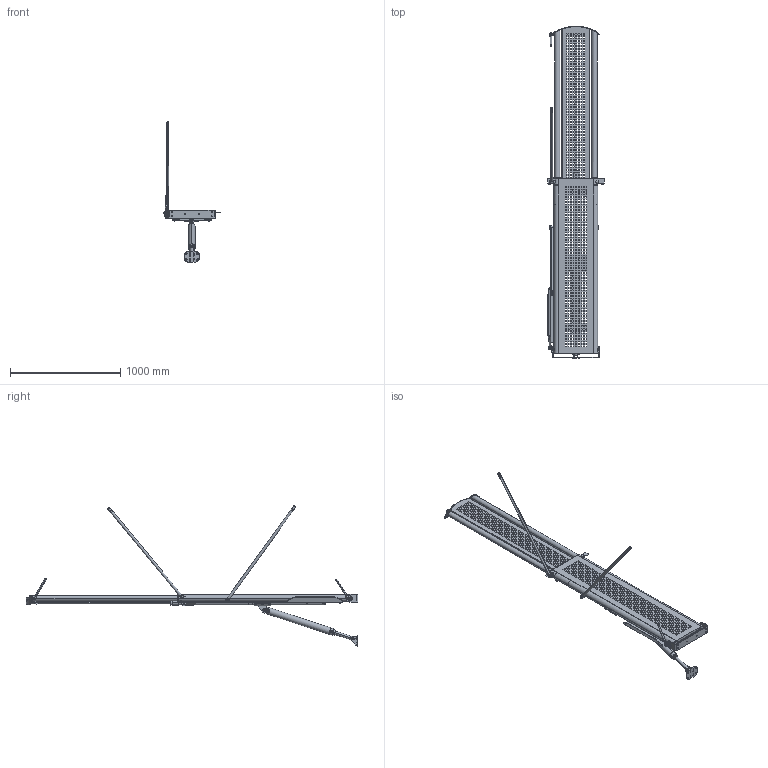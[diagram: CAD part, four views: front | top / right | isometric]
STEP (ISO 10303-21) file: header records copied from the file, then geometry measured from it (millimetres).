
FILE_DESCRIPTION (( 'STEP AP203' ), '1' );
FILE_NAME ('C01000628_ASS_Pass_sme M30 standard tubo D60MODIFICA.STEP', '2022-12-20T10:40:29', ( '' ), ( '' ), 'SwSTEP 2.0', 'SolidWorks 2020', '' );
FILE_SCHEMA (( 'CONFIG_CONTROL_DESIGN' ));
Length unit declared in the file: millimetre
Products named in the file (61): D01000052MODIFICA; GolfareM6MODIFICA; D01000071MODIFICA; Treccia D-14MODIFICA; D01000050MODIFICA; vite_iso_7380-m6x10MODIFICA; Camic_cil_soll C500MODIFICA; vite_iso_7380-m5x12MODIFICA; D04000018MODIFICA; D01003582MODIFICA; D01000067MODIFICA; D02000872MODIFICA; E07000022_ASS_Cil_sfilo_C1275MODIFICA; viti_iso_4027-m5x16MODIFICA; D02000028MODIFICA; rosetta_iso_7089-5MODIFICA; D01000055MODIFICA; D01003581MODIFICA; D02000057MODIFICA; vite_iso_7380-m5x10MODIFICA; D02001356MODIFICA; D02000029MODIFICA; C02000914_Gr_Telaio fisso SME M30 tubo D60MODIFICA; D03000011MODIFICA; D02000595MODIFICA; D02000016MODIFICA; D02000012MODIFICA; Copiglia A4 3_2x40MODIFICA; vite_iso_10642-m5x16MODIFICA; E07000002_ASS_cil_soll_C500MODIFICA; D01000047MODIFICA; D01000046MODIFICA; D01000049MODIFICA; D02000024MODIFICA; D01000051MODIFICA; C02000149_Piastra V 07002 rinfMODIFICA; C02000451_Gr_candeliere SME M30MODIFICA; D01003580MODIFICA; D01000070MODIFICA; Camic_cil_sf_1275MODIFICA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
Assembly tree (110 placements, depth 3):
  C01000628_ASS_Pass_sme M30 standard tubo D60MODIFICA
    D01000051MODIFICA
    C02000914_Gr_Telaio fisso SME M30 tubo D60MODIFICA
      D04000875MODIFICA  x2
      D01003582MODIFICA
      D01000046MODIFICA
      D01003580MODIFICA  x2
      D02000057MODIFICA  x2
      D01000050MODIFICA
      D01003581MODIFICA
      D01000061MODIFICA  x2
      D02000014MODIFICA  x4
      GolfareM6MODIFICA  x2
    C02000450_Gr_Telaio mobile SME M30MODIFICA
      D01000071MODIFICA
      D01000066MODIFICA
      D01000067MODIFICA
      D04000018MODIFICA  x2
      D01000072MODIFICA
      D01000049MODIFICA
      D02000028MODIFICA  x2
      GolfareM6MODIFICA  x2
      D04000500MODIFICA
    C02000149_Piastra V 07002 rinfMODIFICA
      D01000070MODIFICA
      D01000047MODIFICA  x2
    E07000002_ASS_cil_soll_C500MODIFICA
      Camic_cil_soll C500MODIFICA
      stelo_cil_soll C500MODIFICA
    C02000429_Gr_piastra di poppa cil sollMODIFICA
      D01000052MODIFICA
      D01000047MODIFICA  x2
    D02001356MODIFICA  x2
    D02000016MODIFICA  x2
    D03000011MODIFICA
    D03000012MODIFICA
    D01000055MODIFICA
    D02000027MODIFICA
    D02000029MODIFICA
    D02000026MODIFICA  x2
    D02000020MODIFICA  x2
    D02000872MODIFICA  x2
    D02000595MODIFICA
    D02000024MODIFICA
    C02000451_Gr_candeliere SME M30MODIFICA
      D02000018MODIFICA
      D04000022MODIFICA
    C02000451_Gr_candeliere SME M30MODIFICA
      D02000018MODIFICA
      D04000022MODIFICA
    D02000012MODIFICA  x2
    E07000022_ASS_Cil_sfilo_C1275MODIFICA
      Camic_cil_sf_1275MODIFICA
      Stelo_cil_sf_1275MODIFICA
    Copiglia A4 3_2x40MODIFICA  x2
    Treccia D-14MODIFICA  x2
    vite_iso_7380-m6x10MODIFICA  x3
    rosetta_iso_7089-8MODIFICA  x6
    vite_iso_4762-m8x15MODIFICA  x6
    vite_iso_10642-m5x16MODIFICA  x6
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Bounding box: 516.4 x 3010.24 x 1272.29 mm (x, y, z)
Volume: 23642764.1 mm3; surface area: 6670769 mm2
Topology: 105 solids, 105 shells, 4834 faces, 13214 edges, 8543 vertices
Faces by surface type: plane 3241, cylinder 1086, cone 383, torus 88, bspline 32, sphere 4
Entity records: 141759 total; most frequent: CARTESIAN_POINT 28656, ORIENTED_EDGE 22052, DIRECTION 20292, EDGE_CURVE 11026, LINE 9196, VECTOR 9196, VERTEX_POINT 7214, AXIS2_PLACEMENT_3D 5548
